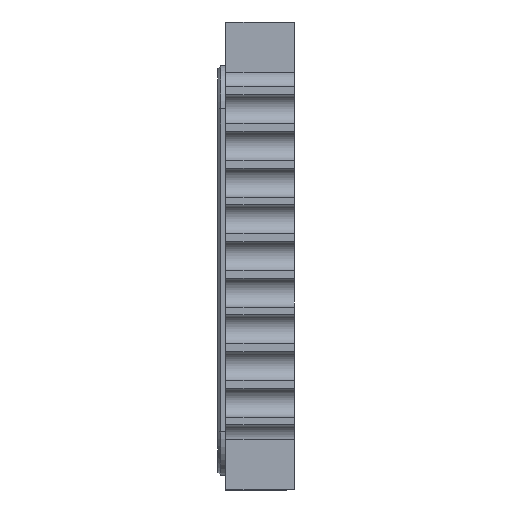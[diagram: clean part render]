
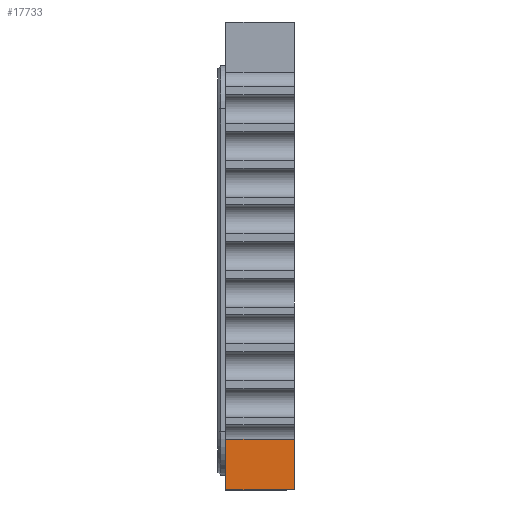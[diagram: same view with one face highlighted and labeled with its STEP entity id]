
A CAD part, left-side view. The second image highlights one B-rep face of the part: STEP entity #17733.
In plain terms, the highlighted planar face has unit normal (-1, 0, 0).
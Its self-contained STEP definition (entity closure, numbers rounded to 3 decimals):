
#8 = PLANE ( 'NONE',  #103 ) ;
#103 = AXIS2_PLACEMENT_3D ( 'NONE', #6089, #4406, #2069 ) ;
#408 = EDGE_CURVE ( 'NONE', #2928, #1885, #9168, .T. ) ;
#430 = VERTEX_POINT ( 'NONE', #17469 ) ;
#1097 = VERTEX_POINT ( 'NONE', #12305 ) ;
#1261 = VECTOR ( 'NONE', #24920, 1000. ) ;
#1885 = VERTEX_POINT ( 'NONE', #8987 ) ;
#2069 = DIRECTION ( 'NONE',  ( 0., 0., -1. ) ) ;
#2899 = ORIENTED_EDGE ( 'NONE', *, *, #4148, .T. ) ;
#2928 = VERTEX_POINT ( 'NONE', #18726 ) ;
#4148 = EDGE_CURVE ( 'NONE', #1885, #430, #13127, .T. ) ;
#4406 = DIRECTION ( 'NONE',  ( 1., 0., 0. ) ) ;
#5994 = ORIENTED_EDGE ( 'NONE', *, *, #24451, .F. ) ;
#6089 = CARTESIAN_POINT ( 'NONE',  ( -65., 26.4, -76. ) ) ;
#7250 = VECTOR ( 'NONE', #22854, 1000. ) ;
#8987 = CARTESIAN_POINT ( 'NONE',  ( -65., 23.6, -58.5 ) ) ;
#9168 = LINE ( 'NONE', #13569, #16031 ) ;
#12305 = CARTESIAN_POINT ( 'NONE',  ( -65., 0., -76. ) ) ;
#13118 = LINE ( 'NONE', #19217, #1261 ) ;
#13127 = LINE ( 'NONE', #19350, #7250 ) ;
#13312 = CARTESIAN_POINT ( 'NONE',  ( -65., 0., -76. ) ) ;
#13569 = CARTESIAN_POINT ( 'NONE',  ( -65., 23.6, -58.5 ) ) ;
#15514 = LINE ( 'NONE', #13312, #17501 ) ;
#15628 = EDGE_LOOP ( 'NONE', ( #23012, #20272, #2899, #5994 ) ) ;
#15772 = DIRECTION ( 'NONE',  ( 0., 1., 0. ) ) ;
#15825 = EDGE_CURVE ( 'NONE', #1097, #2928, #13118, .T. ) ;
#16031 = VECTOR ( 'NONE', #19165, 1000. ) ;
#17469 = CARTESIAN_POINT ( 'NONE',  ( -65., 23.6, -76. ) ) ;
#17501 = VECTOR ( 'NONE', #15772, 1000. ) ;
#17733 = ADVANCED_FACE ( 'NONE', ( #22041 ), #8, .F. ) ;
#18726 = CARTESIAN_POINT ( 'NONE',  ( -65., 0., -58.5 ) ) ;
#19165 = DIRECTION ( 'NONE',  ( 0., 1., 0. ) ) ;
#19217 = CARTESIAN_POINT ( 'NONE',  ( -65., 0., -76. ) ) ;
#19350 = CARTESIAN_POINT ( 'NONE',  ( -65., 23.6, 81. ) ) ;
#20272 = ORIENTED_EDGE ( 'NONE', *, *, #408, .T. ) ;
#22041 = FACE_OUTER_BOUND ( 'NONE', #15628, .T. ) ;
#22854 = DIRECTION ( 'NONE',  ( 0., 0., -1. ) ) ;
#23012 = ORIENTED_EDGE ( 'NONE', *, *, #15825, .T. ) ;
#24451 = EDGE_CURVE ( 'NONE', #1097, #430, #15514, .T. ) ;
#24920 = DIRECTION ( 'NONE',  ( 0., 0., 1. ) ) ;
